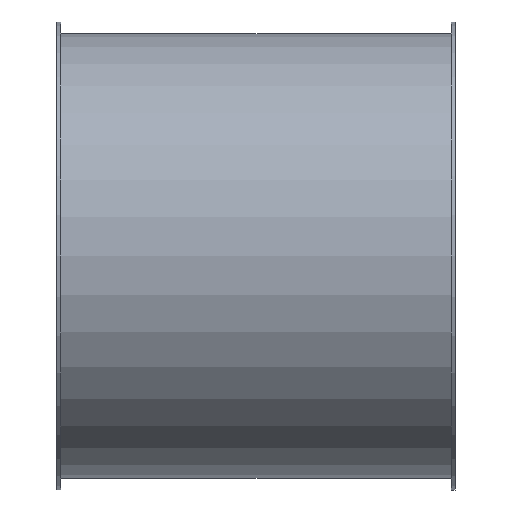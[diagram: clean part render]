
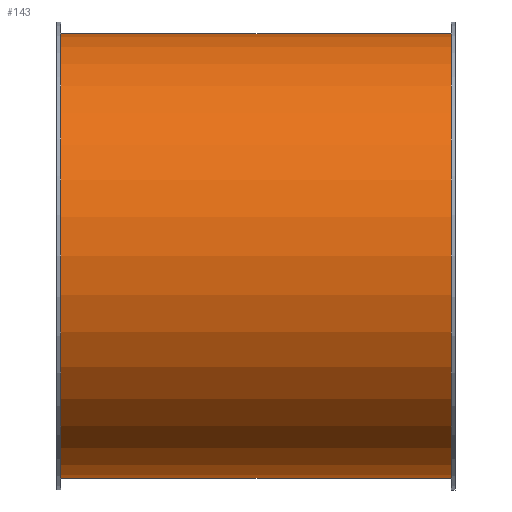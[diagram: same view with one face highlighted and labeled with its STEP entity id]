
A CAD part, front view. The second image highlights one B-rep face of the part: STEP entity #143.
In plain terms, the highlighted cylindrical face has radius 111.5 mm (diameter 223 mm), a full revolution.
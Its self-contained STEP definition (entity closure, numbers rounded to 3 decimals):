
#112=CARTESIAN_POINT('',(166.119,2.817,0.0));
#113=VERTEX_POINT('',#112);
#114=CARTESIAN_POINT('',(166.119,114.317,0.0));
#115=DIRECTION('',(-1.0,0.0,0.0));
#116=DIRECTION('',(0.0,-1.0,0.0));
#117=AXIS2_PLACEMENT_3D('',#114,#115,#116);
#118=CIRCLE('',#117,111.5);
#119=EDGE_CURVE('',#113,#113,#118,.T.);
#124=CARTESIAN_POINT('',(68.119,114.317,0.0));
#125=DIRECTION('',(-1.0,0.,0.0));
#126=DIRECTION('',(0.0,-1.0,0.0));
#127=AXIS2_PLACEMENT_3D('',#124,#125,#126);
#128=CYLINDRICAL_SURFACE('',#127,111.5);
#129=CARTESIAN_POINT('',(-29.881,2.817,0.0));
#130=VERTEX_POINT('',#129);
#131=CARTESIAN_POINT('',(-29.881,114.317,0.0));
#132=DIRECTION('',(-1.0,0.0,0.0));
#133=DIRECTION('',(0.0,-1.0,0.0));
#134=AXIS2_PLACEMENT_3D('',#131,#132,#133);
#135=CIRCLE('',#134,111.5);
#136=EDGE_CURVE('',#130,#130,#135,.T.);
#137=ORIENTED_EDGE('',*,*,#136,.F.);
#138=EDGE_LOOP('',(#137));
#139=FACE_OUTER_BOUND('',#138,.T.);
#140=ORIENTED_EDGE('',*,*,#119,.T.);
#141=EDGE_LOOP('',(#140));
#142=FACE_BOUND('',#141,.T.);
#143=ADVANCED_FACE('',(#139,#142),#128,.T.);
